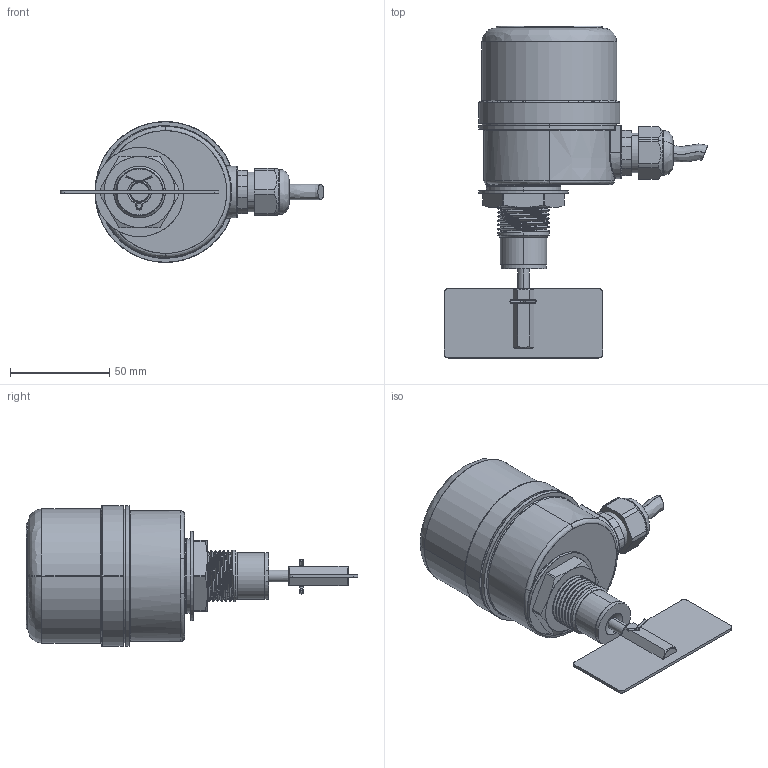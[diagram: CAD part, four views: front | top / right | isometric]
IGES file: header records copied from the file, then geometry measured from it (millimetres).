
Start section: SolidWorks IGES file using analytic representation for surfaces
Global section: file name: C:\Users\Äîì\Desktop\Äàò÷èêè ìîäåëè\IL-MEA 220VAC\Ðåçüáà\IL-MEA 220VAC ïðÿìîóãîëüíàÿ ëîïàñòü - ð.IGS; native system: SolidWorks 2020; preprocessor: SolidWorks 2020; author: Äîì; date: 201223.194150; units: millimetre
Bounding box: 132.97 x 167.5 x 71 mm (x, y, z)
Surface area: 51674.6 mm2 (no closed solid volume)
Topology: 0 solids, 0 shells, 265 faces, 4268 edges, 4266 vertices
Faces by surface type: revolution 134, bspline 131
